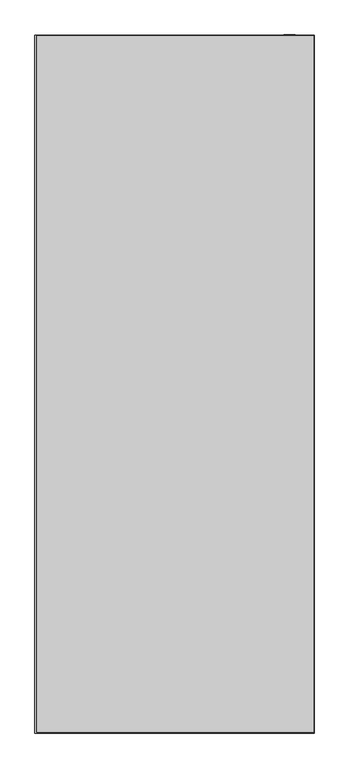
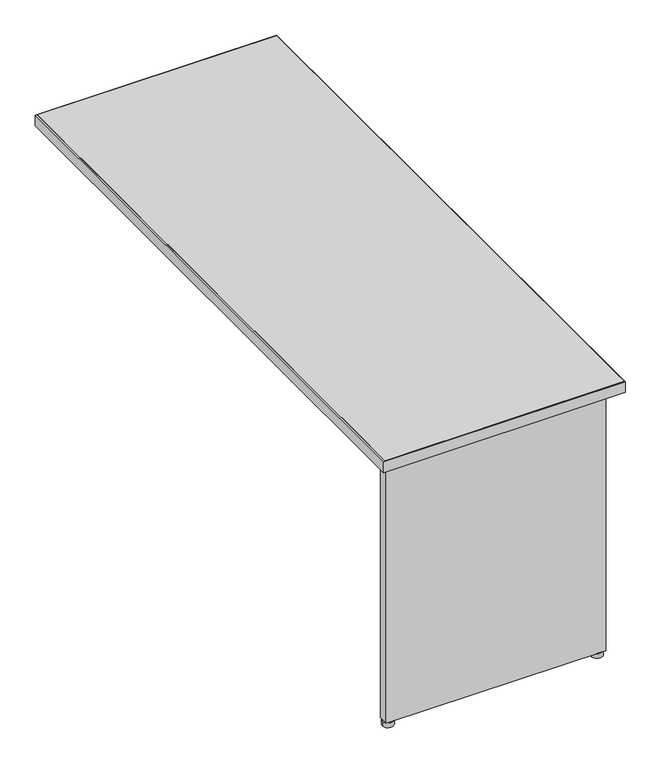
"""IFC4 building model written with IfcOpenShell, lengths in millimetres: furniture geometry, Steelcase - Kick Freestanding - Desk - Return - Full Height Modesty Panel : 24D x 60W - Right."""

from ifc_helpers import new_model, si_unit, point, frame, frame_2d, origin, origin_with_axes, place, context, project, spatial, polyline, circle_curve, trimmed, segment, composite_curve, outline, extrude, source, transform, mapped, element, save


def furniture_98fcede4(model_context):
    return source(origin(), model_context, "Body", "SweptSolid", [
        extrude(outline(composite_curve([segment(trimmed(circle_curve(frame_2d((2107.4714425, -2045.4145152)), 13.97), [point((2121.4414425, -2045.4145152))], [point((2093.5014425, -2045.4145152))], False, "CARTESIAN"), True, "CONTINUOUS"), segment(trimmed(circle_curve(frame_2d((2107.4714425, -2045.4145152)), 13.97), [point((2093.5014425, -2045.4145152))], [point((2121.4414425, -2045.4145152))], False, "CARTESIAN"), True, "CONTINUOUS")], self_intersect=False)), origin_with_axes(), (0.0, 0.0, 1.0), 12.7),
        extrude(outline(composite_curve([segment(trimmed(circle_curve(frame_2d((1579.6594425, -2045.4145152)), 13.97), [point((1593.6294425, -2045.4145152))], [point((1565.6894425, -2045.4145152))], False, "CARTESIAN"), True, "CONTINUOUS"), segment(trimmed(circle_curve(frame_2d((1579.6594425, -2045.4145152)), 13.97), [point((1565.6894425, -2045.4145152))], [point((1593.6294425, -2045.4145152))], False, "CARTESIAN"), True, "CONTINUOUS")], self_intersect=False)), origin_with_axes(), (0.0, 0.0, 1.0), 12.7),
        extrude(outline(polyline([(2122.7114425, -2032.8669152), (2122.7114425, -2057.3525098), (1568.2294473, -2057.3525098), (1568.2294473, -2032.8669041), (1691.2670317, -2032.8669041), (1691.2670317, -2055.2951136), (1790.9874347, -2055.2951136), (1790.9874347, -2032.8669041), (1899.7248382, -2032.8669041), (1899.7248382, -2055.2951136), (1999.4452412, -2055.2951136), (1999.4452412, -2032.8669152), (2122.7114425, -2032.8669152)])), frame((0.0, 0.0, 12.7), z_axis=(0.0, 0.0, 1.0), x_axis=(1.0, 0.0, 0.0)), (0.0, 0.0, 1.0), 682.244),
        extrude(outline(polyline([(2097.3114424, -546.0525152), (2122.7114425, -546.0525152), (2122.7114425, -2032.8669152), (2097.3114424, -2032.8669152), (2097.3114424, -546.0525152)])), frame((0.0, 0.0, 31.242), z_axis=(0.0, 0.0, 1.0), x_axis=(1.0, 0.0, 0.0)), (0.0, 0.0, 1.0), 663.702),
        extrude(outline(polyline([(1558.5012257, -548.0845152), (2162.8688425, -548.0845152), (2162.8688425, -2069.5445152), (1558.5012257, -2069.5445152), (1558.5012257, -548.0845152)])), frame((0.0, 0.0, 694.944), z_axis=(0.0, 0.0, 1.0), x_axis=(1.0, 0.0, 0.0)), (0.0, 0.0, 1.0), 28.956),
        extrude(outline(polyline([(1554.2594425, -546.8145152), (2163.8594425, -546.8145152), (2163.8594425, -2070.8145152), (1554.2594425, -2070.8145152), (1554.2594425, -546.8145152)]), holes=[polyline([(1558.5012257, -548.0845152), (1558.5012257, -2069.5445152), (2162.8688425, -2069.5445152), (2162.8688425, -548.0845152), (1558.5012257, -548.0845152)])]), frame((0.0, 0.0, 694.944), z_axis=(0.0, 0.0, 1.0), x_axis=(1.0, 0.0, 0.0)), (0.0, 0.0, 1.0), 28.956),
    ])


if __name__ == "__main__":
    model = new_model("IFC4")
    model_context = context("Model", 3, world=origin())
    ifc_project = project(units=[si_unit("LENGTHUNIT", "METRE", prefix="MILLI")], contexts=[model_context])
    site = spatial("IfcSite", under=ifc_project)
    building = spatial("IfcBuilding", under=site)
    placement = place(None, origin())
    furniture_shape = furniture_98fcede4(model_context)
    element("IfcFurniture", 1, ObjectType="Steelcase - Kick Freestanding - Desk - Return - Full Height Modesty Panel : 24D x 60W - Right", at=placement, inside=building, context=model_context, shape_type="MappedRepresentation", body=[
        mapped(furniture_shape, transform((0.0, 0.0, 0.0), x_axis=(1.0, 0.0, 0.0), y_axis=(0.0, 1.0, 0.0), z_axis=(0.0, 0.0, 1.0))),
    ])
    save(model, "model.ifc")
